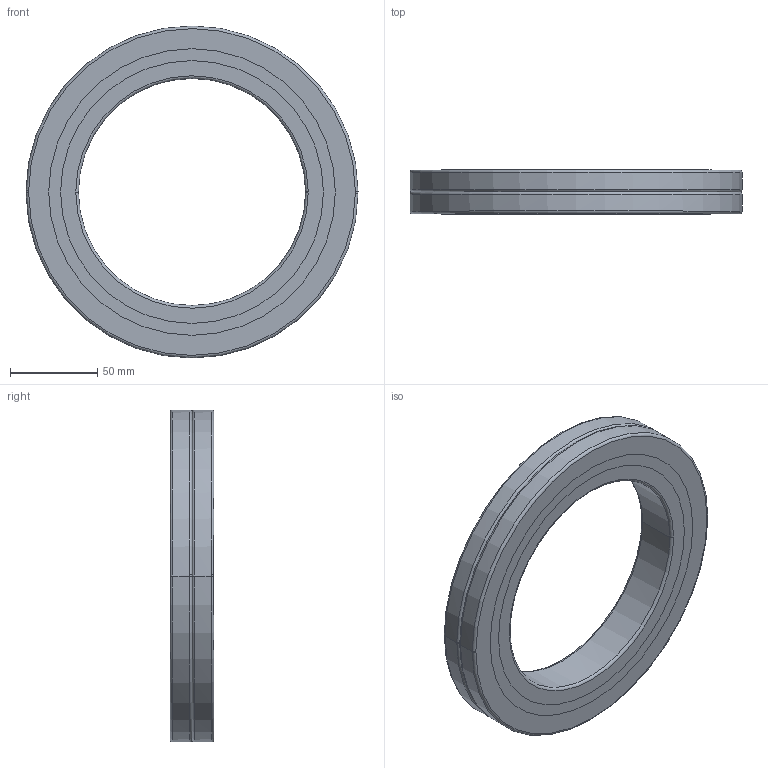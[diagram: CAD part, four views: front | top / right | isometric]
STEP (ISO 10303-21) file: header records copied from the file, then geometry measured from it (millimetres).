
FILE_DESCRIPTION(('no description'),'unknown implementation level');
FILE_NAME('CRBA13025_31.stp',' ',('HIWIN GmbH'),('CADClick - KiM GmbH - www.kimweb.de'),'unknown preprocess','ACIS','unknown authorization');
FILE_SCHEMA(('automotive_design'));
Length unit declared in the file: millimetre
Products named in the file (5): CRBA13025_1; CRBA13025_2; CRBA13025_3; CRBA13025_4; CRBA13025
Bounding box: 190 x 25 x 190 mm (x, y, z)
Volume: 304922.9 mm3; surface area: 103044.9 mm2
Topology: 5 solids, 5 shells, 54 faces, 120 edges, 76 vertices
Faces by surface type: torus 24, cylinder 20, plane 10
Entity records: 3096 total; most frequent: DIRECTION 338, STYLED_ITEM 255, PRESENTATION_STYLE_ASSIGNMENT 255, CARTESIAN_POINT 255, COLOUR_RGB 255, ORIENTED_EDGE 240, AXIS2_PLACEMENT_3D 159, EDGE_CURVE 120
